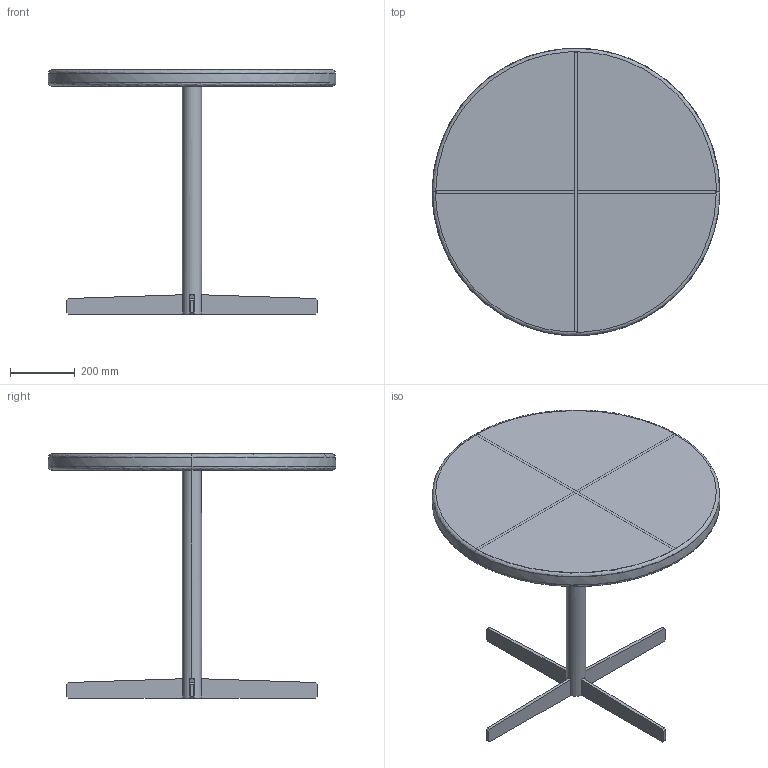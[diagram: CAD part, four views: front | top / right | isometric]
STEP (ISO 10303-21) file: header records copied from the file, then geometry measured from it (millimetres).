
FILE_DESCRIPTION(/* description */ (''),/* implementation_level */ '2;1');
FILE_NAME(/* name */ 'FRAMA-Tasca-Table-Large-3D',/* time_stamp */ '2026-03-09T15:02:34+01:00',/* author */ (''),/* organization */ (''),/* preprocessor_version */ 'ST-DEVELOPER v16.5',/* originating_system */ 'Rhino 7.38',/* authorisation */ '');
FILE_SCHEMA (('CONFIG_CONTROL_DESIGN'));
Length unit declared in the file: millimetre
Products named in the file (4): Document; Tube with hole; Tube with hole  (1); Component2
Assembly tree (3 placements, depth 3):
  Document
    Tube with hole
      Tube with hole  (1)
    Component2
Bounding box: 890 x 889.2 x 755 mm (x, y, z)
Volume: 4426800.7 mm3; surface area: 2160679.9 mm2
Topology: 7 solids, 7 shells, 131 faces, 340 edges, 224 vertices
Faces by surface type: plane 91, cylinder 28, bspline 12
Entity records: 4223 total; most frequent: CARTESIAN_POINT 1585, ORIENTED_EDGE 680, EDGE_CURVE 340, B_SPLINE_CURVE_WITH_KNOTS 244, VERTEX_POINT 224, DIRECTION 139, EDGE_LOOP 136, ADVANCED_FACE 131
